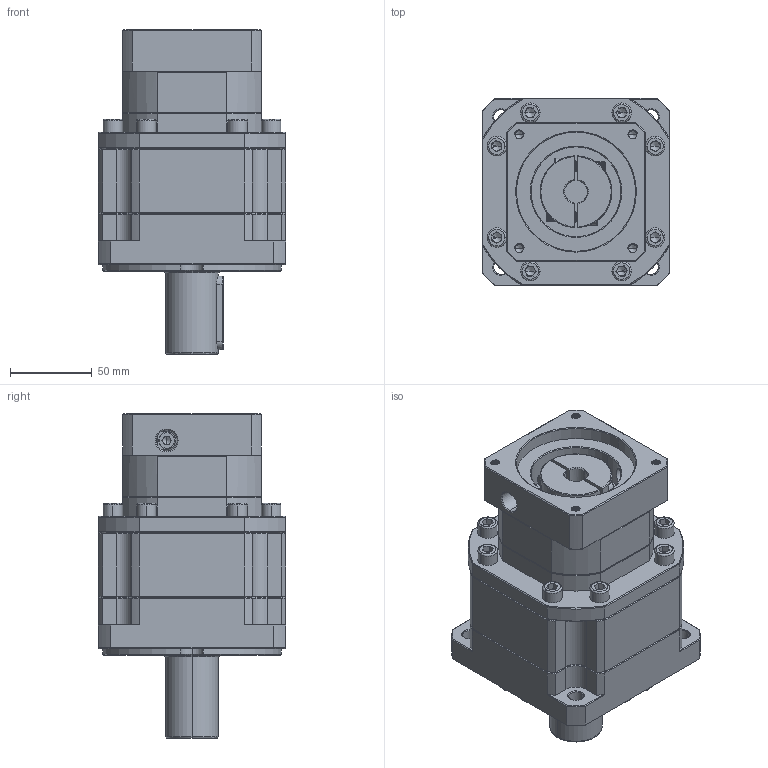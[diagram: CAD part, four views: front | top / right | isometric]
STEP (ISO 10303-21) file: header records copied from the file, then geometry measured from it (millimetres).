
FILE_DESCRIPTION (( 'STEP AP214' ), '1' );
FILE_NAME ('ZB115A-D32-L2-14-73-69.6X69.6-M6.step', '2023-03-03T09:54:53', ( '' ), ( 'Microsoft' ), 'SwSTEP 2.0', 'SolidWorks 2016', '' );
FILE_SCHEMA (( 'AUTOMOTIVE_DESIGN' ));
Length unit declared in the file: millimetre
Products named in the file (1): ZB115A-D32-L2-14-73-69.6X69.6-M6
Bounding box: 115 x 115 x 199 mm (x, y, z)
Volume: 1375570.6 mm3; surface area: 133866.7 mm2
Topology: 5 solids, 6 shells, 2135 faces, 5508 edges, 3470 vertices
Faces by surface type: plane 1010, cylinder 425, cone 356, bspline 329, torus 15
Entity records: 112632 total; most frequent: CARTESIAN_POINT 40109, ORIENTED_EDGE 10940, DIRECTION 8969, EDGE_CURVE 5470, VERTEX_POINT 3470, VECTOR 3417, LINE 3417, AXIS2_PLACEMENT_3D 2776
